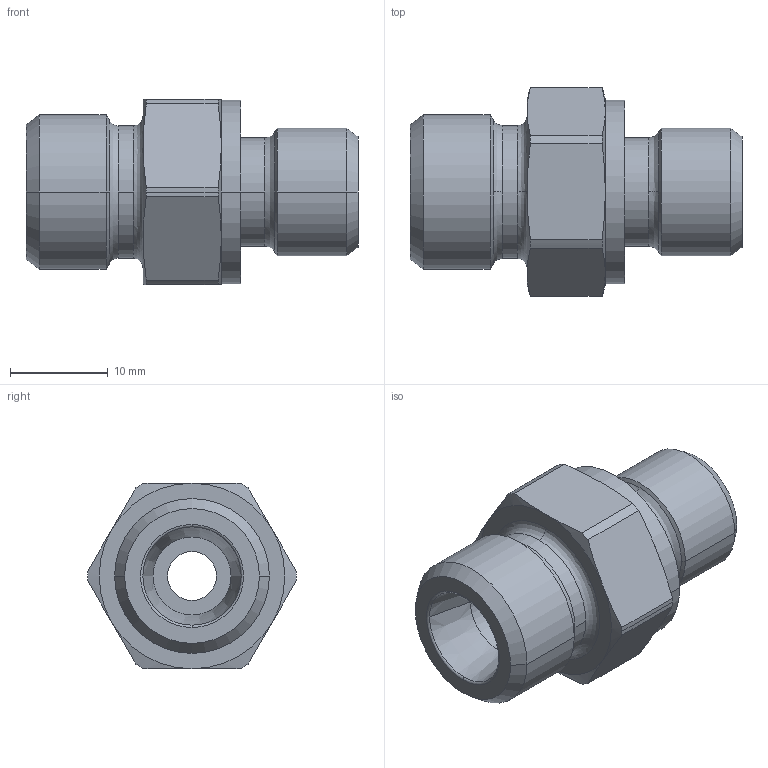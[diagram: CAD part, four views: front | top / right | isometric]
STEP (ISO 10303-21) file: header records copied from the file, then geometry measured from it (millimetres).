
FILE_DESCRIPTION((''),'2;1');
FILE_NAME('100515.stp','2007-10-30T14:16:33',(''),(''),'AutoCAD STEP 2000i','AutoCAD 2000i',', , ');
FILE_SCHEMA(('CONFIG_CONTROL_DESIGN'));
Length unit declared in the file: millimetre
Products named in the file (2): 100515.0; CHIAVE SMUSSATA#0
Assembly tree (1 placements, depth 2):
  100515.0
    CHIAVE SMUSSATA#0
Bounding box: 34 x 21.4 x 19 mm (x, y, z)
Volume: 5505 mm3; surface area: 2978.3 mm2
Topology: 1 solids, 1 shells, 75 faces, 185 edges, 117 vertices
Faces by surface type: cylinder 24, cone 24, plane 13, bspline 12, torus 2
Entity records: 2835 total; most frequent: CARTESIAN_POINT 955, DIRECTION 410, ORIENTED_EDGE 370, EDGE_CURVE 185, AXIS2_PLACEMENT_3D 184, CIRCLE 119, VERTEX_POINT 117, EDGE_LOOP 82
